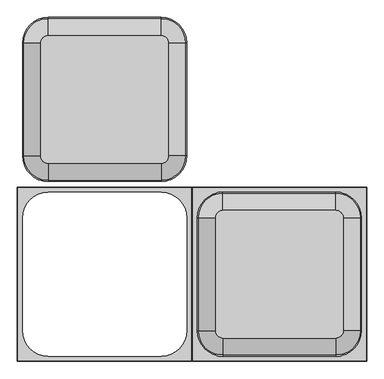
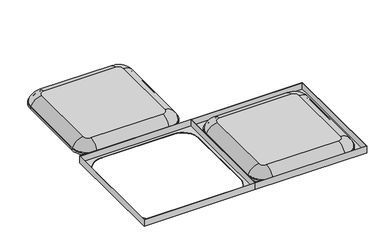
"""IFC4 building model written with IfcOpenShell, lengths in millimetres: proxy geometry, Maxxit_Concave-Ceiling_rev-01 : Maxxit_Concave-Ceiling_Solo."""

from ifc_helpers import new_model, si_unit, point, frame, origin, place, context, project, spatial, polyline, circle_curve, ellipse_curve, trimmed, source, transform, mapped, element, save
from ifc_brep_helpers import plane_surface, cylinder_surface, revolved_surface, advanced_brep


def generic_models_d78bd060(model_context):
    return source(origin(), model_context, "Body", "AdvancedBrep", [
        advanced_brep(
        [(679.0117964, 1263.0125, 44.45), (653.4125, 1288.6117964, 44.45), (259.4, 1288.6117964, 44.45), (233.8007036, 1263.0125, 44.45), (233.8007036, 869.0, 44.45), (259.4, 843.4007036, 44.45), (653.4125, 843.4007036, 44.45), (679.0117964, 869.0, 44.45), (653.4125, 1288.6117964, 34.925), (679.0117964, 1263.0125, 34.925), (679.0117964, 869.0, 34.925), (653.4125, 843.4007036, 34.925), (259.4, 843.4007036, 34.925), (233.8007036, 869.0, 34.925), (233.8007036, 1263.0125, 34.925), (259.4, 1288.6117964, 34.925), (653.4125, 1352.0125, -1.5875), (742.4125, 1263.0125, -1.5875), (742.4125, 1263.0125, -11.1125), (653.4125, 1352.0125, -11.1125), (653.4125, 1348.9934189, 0.6047619), (739.3934189, 1263.0125, 0.6047619), (653.4125, 1339.9361755, -2.3434524), (730.3361755, 1263.0125, -2.3434524), (259.4, 1352.0125, -11.1125), (259.4, 1352.0125, -1.5875), (259.4, 1348.9934189, 0.6047619), (259.4, 1339.9361755, -2.3434524), (170.4, 1263.0125, -11.1125), (170.4, 1263.0125, -1.5875), (173.4190811, 1263.0125, 0.6047619), (182.4763245, 1263.0125, -2.3434524), (170.4, 869.0, -11.1125), (170.4, 869.0, -1.5875), (173.4190811, 869.0, 0.6047619), (182.4763245, 869.0, -2.3434524), (259.4, 780.0, -11.1125), (259.4, 780.0, -1.5875), (259.4, 783.0190811, 0.6047619), (259.4, 792.0763245, -2.3434524), (653.4125, 780.0, -11.1125), (653.4125, 780.0, -1.5875), (653.4125, 783.0190811, 0.6047619), (653.4125, 792.0763245, -2.3434524), (742.4125, 869.0, -11.1125), (742.4125, 869.0, -1.5875), (739.3934189, 869.0, 0.6047619), (730.3361755, 869.0, -2.3434524)],
        [
            (0, 1, circle_curve(frame((653.4125, 1263.0125, 44.45), z_axis=(0.0, 0.0, 1.0), x_axis=(1.0, 0.0, 0.0)), 25.5992964)),
            (1, 2),
            (2, 3, circle_curve(frame((259.4, 1263.0125, 44.45), z_axis=(0.0, 0.0, 1.0), x_axis=(0.0, 1.0, 0.0)), 25.5992964)),
            (3, 4),
            (4, 5, circle_curve(frame((259.4, 869.0, 44.45), z_axis=(0.0, 0.0, 1.0), x_axis=(-1.0, 0.0, 0.0)), 25.5992964)),
            (5, 6),
            (6, 7, circle_curve(frame((653.4125, 869.0, 44.45), z_axis=(0.0, 0.0, 1.0), x_axis=(0.0, -1.0, 0.0)), 25.5992964)),
            (7, 0),
            (8, 9, circle_curve(frame((653.4125, 1263.0125, 34.925), z_axis=(0.0, 0.0, -1.0), x_axis=(1.0, 0.0, 0.0)), 25.5992964)),
            (9, 10),
            (10, 11, circle_curve(frame((653.4125, 869.0, 34.925), z_axis=(0.0, 0.0, -1.0), x_axis=(0.0, -1.0, 0.0)), 25.5992964)),
            (11, 12),
            (12, 13, circle_curve(frame((259.4, 869.0, 34.925), z_axis=(0.0, 0.0, -1.0), x_axis=(-1.0, 0.0, 0.0)), 25.5992964)),
            (13, 14),
            (14, 15, circle_curve(frame((259.4, 1263.0125, 34.925), z_axis=(0.0, 0.0, -1.0), x_axis=(0.0, 1.0, 0.0)), 25.5992964)),
            (15, 8),
            (16, 17, circle_curve(frame((653.4125, 1263.0125, -1.5875), z_axis=(0.0, 0.0, -1.0), x_axis=(1.0, 0.0, 0.0)), 89.0)),
            (17, 18),
            (18, 19, circle_curve(frame((653.4125, 1263.0125, -11.1125), z_axis=(0.0, 0.0, 1.0), x_axis=(1.0, 0.0, 0.0)), 89.0)),
            (19, 16),
            (16, 20, circle_curve(frame((653.4125, 1352.0125, 1.5875), z_axis=(-1.0, 0.0, 0.0), x_axis=(0.0, -1.0, 0.0)), 3.175)),
            (20, 21, circle_curve(frame((653.4125, 1263.0125, 0.6047619), z_axis=(0.0, 0.0, -1.0), x_axis=(1.0, 0.0, 0.0)), 85.9809189)),
            (21, 17, circle_curve(frame((742.4125, 1263.0125, 1.5875), z_axis=(0.0, -1.0, 0.0), x_axis=(-1.0, 0.0, 0.0)), 3.175)),
            (20, 1, circle_curve(frame((653.4125, 1288.6117964, -19.05), z_axis=(1.0, 0.0, 0.0), x_axis=(0.0, -1.0, 0.0)), 63.5)),
            (0, 21, circle_curve(frame((679.0117964, 1263.0125, -19.05), z_axis=(0.0, 1.0, 0.0), x_axis=(-1.0, 0.0, 0.0)), 63.5)),
            (22, 23, circle_curve(frame((653.4125, 1263.0125, -2.3434524), z_axis=(0.0, 0.0, -1.0), x_axis=(1.0, 0.0, 0.0)), 76.9236755)),
            (23, 9, circle_curve(frame((679.0117964, 1263.0125, -19.05), z_axis=(0.0, -1.0, 0.0), x_axis=(-1.0, 0.0, 0.0)), 53.975)),
            (8, 22, circle_curve(frame((653.4125, 1288.6117964, -19.05), z_axis=(-1.0, 0.0, 0.0), x_axis=(0.0, -1.0, 0.0)), 53.975)),
            (18, 23, circle_curve(frame((742.4125, 1263.0125, 1.5875), z_axis=(0.0, 1.0, 0.0), x_axis=(-1.0, 0.0, 0.0)), 12.7)),
            (22, 19, circle_curve(frame((653.4125, 1352.0125, 1.5875), z_axis=(1.0, 0.0, 0.0), x_axis=(0.0, -1.0, 0.0)), 12.7)),
            (19, 24),
            (24, 25),
            (25, 16),
            (25, 26, circle_curve(frame((259.4, 1352.0125, 1.5875), z_axis=(-1.0, 0.0, 0.0), x_axis=(0.0, -1.0, 0.0)), 3.175)),
            (26, 20),
            (26, 2, circle_curve(frame((259.4, 1288.6117964, -19.05), z_axis=(1.0, 0.0, 0.0), x_axis=(0.0, -1.0, 0.0)), 63.5)),
            (15, 27, circle_curve(frame((259.4, 1288.6117964, -19.05), z_axis=(-1.0, 0.0, 0.0), x_axis=(0.0, -1.0, 0.0)), 53.975)),
            (27, 22),
            (27, 24, circle_curve(frame((259.4, 1352.0125, 1.5875), z_axis=(1.0, 0.0, 0.0), x_axis=(0.0, -1.0, 0.0)), 12.7)),
            (24, 28, circle_curve(frame((259.4, 1263.0125, -11.1125), z_axis=(0.0, 0.0, 1.0), x_axis=(0.0, 1.0, 0.0)), 89.0)),
            (28, 29),
            (29, 25, circle_curve(frame((259.4, 1263.0125, -1.5875), z_axis=(0.0, 0.0, -1.0), x_axis=(0.0, 1.0, 0.0)), 89.0)),
            (29, 30, circle_curve(frame((170.4, 1263.0125, 1.5875), z_axis=(0.0, -1.0, 0.0), x_axis=(1.0, 0.0, 0.0)), 3.175)),
            (30, 26, circle_curve(frame((259.4, 1263.0125, 0.6047619), z_axis=(0.0, 0.0, -1.0), x_axis=(0.0, 1.0, 0.0)), 85.9809189)),
            (30, 3, circle_curve(frame((233.8007036, 1263.0125, -19.05), z_axis=(0.0, 1.0, 0.0), x_axis=(1.0, 0.0, 0.0)), 63.5)),
            (14, 31, circle_curve(frame((233.8007036, 1263.0125, -19.05), z_axis=(0.0, -1.0, 0.0), x_axis=(1.0, 0.0, 0.0)), 53.975)),
            (31, 27, circle_curve(frame((259.4, 1263.0125, -2.3434524), z_axis=(0.0, 0.0, -1.0), x_axis=(0.0, 1.0, 0.0)), 76.9236755)),
            (31, 28, circle_curve(frame((170.4, 1263.0125, 1.5875), z_axis=(0.0, 1.0, 0.0), x_axis=(1.0, 0.0, 0.0)), 12.7)),
            (28, 32),
            (32, 33),
            (33, 29),
            (33, 34, circle_curve(frame((170.4, 869.0, 1.5875), z_axis=(0.0, -1.0, 0.0), x_axis=(1.0, 0.0, 0.0)), 3.175)),
            (34, 30),
            (34, 4, circle_curve(frame((233.8007036, 869.0, -19.05), z_axis=(0.0, 1.0, 0.0), x_axis=(1.0, 0.0, 0.0)), 63.5)),
            (13, 35, circle_curve(frame((233.8007036, 869.0, -19.05), z_axis=(0.0, -1.0, 0.0), x_axis=(1.0, 0.0, 0.0)), 53.975)),
            (35, 31),
            (35, 32, circle_curve(frame((170.4, 869.0, 1.5875), z_axis=(0.0, 1.0, 0.0), x_axis=(1.0, 0.0, 0.0)), 12.7)),
            (32, 36, circle_curve(frame((259.4, 869.0, -11.1125), z_axis=(0.0, 0.0, 1.0), x_axis=(-1.0, 0.0, 0.0)), 89.0)),
            (36, 37),
            (37, 33, circle_curve(frame((259.4, 869.0, -1.5875), z_axis=(0.0, 0.0, -1.0), x_axis=(-1.0, 0.0, 0.0)), 89.0)),
            (37, 38, circle_curve(frame((259.4, 780.0, 1.5875), z_axis=(1.0, 0.0, 0.0), x_axis=(0.0, 1.0, 0.0)), 3.175)),
            (38, 34, circle_curve(frame((259.4, 869.0, 0.6047619), z_axis=(0.0, 0.0, -1.0), x_axis=(-1.0, 0.0, 0.0)), 85.9809189)),
            (38, 5, circle_curve(frame((259.4, 843.4007036, -19.05), z_axis=(-1.0, 0.0, 0.0), x_axis=(0.0, 1.0, 0.0)), 63.5)),
            (12, 39, circle_curve(frame((259.4, 843.4007036, -19.05), z_axis=(1.0, 0.0, 0.0), x_axis=(0.0, 1.0, 0.0)), 53.975)),
            (39, 35, circle_curve(frame((259.4, 869.0, -2.3434524), z_axis=(0.0, 0.0, -1.0), x_axis=(-1.0, 0.0, 0.0)), 76.9236755)),
            (39, 36, circle_curve(frame((259.4, 780.0, 1.5875), z_axis=(-1.0, 0.0, 0.0), x_axis=(0.0, 1.0, 0.0)), 12.7)),
            (36, 40),
            (40, 41),
            (41, 37),
            (41, 42, circle_curve(frame((653.4125, 780.0, 1.5875), z_axis=(1.0, 0.0, 0.0), x_axis=(0.0, 1.0, 0.0)), 3.175)),
            (42, 38),
            (42, 6, circle_curve(frame((653.4125, 843.4007036, -19.05), z_axis=(-1.0, 0.0, 0.0), x_axis=(0.0, 1.0, 0.0)), 63.5)),
            (11, 43, circle_curve(frame((653.4125, 843.4007036, -19.05), z_axis=(1.0, 0.0, 0.0), x_axis=(0.0, 1.0, 0.0)), 53.975)),
            (43, 39),
            (43, 40, circle_curve(frame((653.4125, 780.0, 1.5875), z_axis=(-1.0, 0.0, 0.0), x_axis=(0.0, 1.0, 0.0)), 12.7)),
            (40, 44, circle_curve(frame((653.4125, 869.0, -11.1125), z_axis=(0.0, 0.0, 1.0), x_axis=(0.0, -1.0, 0.0)), 89.0)),
            (44, 45),
            (45, 41, circle_curve(frame((653.4125, 869.0, -1.5875), z_axis=(0.0, 0.0, -1.0), x_axis=(0.0, -1.0, 0.0)), 89.0)),
            (45, 46, circle_curve(frame((742.4125, 869.0, 1.5875), z_axis=(0.0, 1.0, 0.0), x_axis=(-1.0, 0.0, 0.0)), 3.175)),
            (46, 42, circle_curve(frame((653.4125, 869.0, 0.6047619), z_axis=(0.0, 0.0, -1.0), x_axis=(0.0, -1.0, 0.0)), 85.9809189)),
            (46, 7, circle_curve(frame((679.0117964, 869.0, -19.05), z_axis=(0.0, -1.0, 0.0), x_axis=(-1.0, 0.0, 0.0)), 63.5)),
            (10, 47, circle_curve(frame((679.0117964, 869.0, -19.05), z_axis=(0.0, 1.0, 0.0), x_axis=(-1.0, 0.0, 0.0)), 53.975)),
            (47, 43, circle_curve(frame((653.4125, 869.0, -2.3434524), z_axis=(0.0, 0.0, -1.0), x_axis=(0.0, -1.0, 0.0)), 76.9236755)),
            (47, 44, circle_curve(frame((742.4125, 869.0, 1.5875), z_axis=(0.0, -1.0, 0.0), x_axis=(-1.0, 0.0, 0.0)), 12.7)),
            (17, 45),
            (44, 18),
            (21, 46),
            (23, 47),
        ],
        [
            plane_surface(frame((250.0573389, 869.0, 44.45), z_axis=(0.0, 0.0, 1.0), x_axis=(0.0, -1.0, 0.0))),
            plane_surface(frame((250.0573389, 869.0, 34.925), z_axis=(0.0, 0.0, -1.0), x_axis=(0.0, 1.0, 0.0))),
            cylinder_surface(frame((653.4125, 1263.0125, 25.4), z_axis=(0.0, 0.0, 1.0), x_axis=(1.0, 0.0, 0.0)), 89.0),
            revolved_surface(trimmed(ellipse_curve(frame((742.4125, 1263.0125, 1.5875), z_axis=(0.0, 1.0, 0.0), x_axis=(-1.0, 0.0, 0.0)), 3.175, 3.175), [point((742.4125, 1263.0125, -1.5875))], [point((739.3934189, 1263.0125, 0.6047619))], True, "CARTESIAN"), (653.4125, 1263.0125, 25.4), (0.0, 0.0, 1.0)),
            revolved_surface(trimmed(ellipse_curve(frame((679.0117964, 1263.0125, -19.05), z_axis=(0.0, -1.0, 0.0), x_axis=(-1.0, 0.0, 0.0)), 63.5, 63.5), [point((739.3934189, 1263.0125, 0.6047619))], [point((679.0117964, 1263.0125, 44.45))], True, "CARTESIAN"), (653.4125, 1263.0125, 25.4), (0.0, 0.0, 1.0)),
            revolved_surface(trimmed(ellipse_curve(frame((679.0117964, 1263.0125, -19.05), z_axis=(0.0, 1.0, 0.0), x_axis=(-1.0, 0.0, 0.0)), 53.975, 53.975), [point((679.0117964, 1263.0125, 34.925))], [point((730.3361755, 1263.0125, -2.3434524))], True, "CARTESIAN"), (653.4125, 1263.0125, 25.4), (0.0, 0.0, 1.0)),
            revolved_surface(trimmed(ellipse_curve(frame((742.4125, 1263.0125, 1.5875), z_axis=(0.0, -1.0, 0.0), x_axis=(-1.0, 0.0, 0.0)), 12.7, 12.7), [point((730.3361755, 1263.0125, -2.3434524))], [point((742.4125, 1263.0125, -11.1125))], True, "CARTESIAN"), (653.4125, 1263.0125, 25.4), (0.0, 0.0, 1.0)),
            plane_surface(frame((653.4125, 1352.0125, -11.1125), z_axis=(0.0, 1.0, 0.0), x_axis=(-1.0, 0.0, 0.0))),
            revolved_surface(polyline([(259.4, 1348.8375, 1.5875), (653.4125, 1348.8375, 1.5875)]), (653.4125, 1352.0125, 1.5875), (-1.0, 0.0, 0.0)),
            cylinder_surface(frame((653.4125, 1288.6117964, -19.05), z_axis=(1.0, 0.0, 0.0), x_axis=(0.0, -1.0, 0.0)), 63.5),
            revolved_surface(polyline([(259.4, 1234.6367964, -19.05), (653.4125, 1234.6367964, -19.05)]), (653.4125, 1288.6117964, -19.05), (-1.0, 0.0, 0.0)),
            cylinder_surface(frame((653.4125, 1352.0125, 1.5875), z_axis=(1.0, 0.0, 0.0), x_axis=(0.0, -1.0, 0.0)), 12.7),
            cylinder_surface(frame((259.4, 1263.0125, 25.4), z_axis=(0.0, 0.0, 1.0), x_axis=(0.0, 1.0, 0.0)), 89.0),
            revolved_surface(trimmed(ellipse_curve(frame((259.4, 1352.0125, 1.5875), z_axis=(-1.0, 0.0, 0.0), x_axis=(0.0, -1.0, 0.0)), 3.175, 3.175), [point((259.4, 1352.0125, -1.5875))], [point((259.4, 1348.9934189, 0.6047619))], True, "CARTESIAN"), (259.4, 1263.0125, 25.4), (0.0, 0.0, 1.0)),
            revolved_surface(trimmed(ellipse_curve(frame((259.4, 1288.6117964, -19.05), z_axis=(1.0, 0.0, 0.0), x_axis=(0.0, -1.0, 0.0)), 63.5, 63.5), [point((259.4, 1348.9934189, 0.6047619))], [point((259.4, 1288.6117964, 44.45))], True, "CARTESIAN"), (259.4, 1263.0125, 25.4), (0.0, 0.0, 1.0)),
            revolved_surface(trimmed(ellipse_curve(frame((259.4, 1288.6117964, -19.05), z_axis=(-1.0, 0.0, 0.0), x_axis=(0.0, -1.0, 0.0)), 53.975, 53.975), [point((259.4, 1288.6117964, 34.925))], [point((259.4, 1339.9361755, -2.3434524))], True, "CARTESIAN"), (259.4, 1263.0125, 25.4), (0.0, 0.0, 1.0)),
            revolved_surface(trimmed(ellipse_curve(frame((259.4, 1352.0125, 1.5875), z_axis=(1.0, 0.0, 0.0), x_axis=(0.0, -1.0, 0.0)), 12.7, 12.7), [point((259.4, 1339.9361755, -2.3434524))], [point((259.4, 1352.0125, -11.1125))], True, "CARTESIAN"), (259.4, 1263.0125, 25.4), (0.0, 0.0, 1.0)),
            plane_surface(frame((170.4, 1263.0125, -11.1125), z_axis=(-1.0, 0.0, 0.0), x_axis=(0.0, -1.0, 0.0))),
            revolved_surface(polyline([(173.57500000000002, 869.0, 1.5875), (173.57500000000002, 1263.0125, 1.5875)]), (170.4, 1263.0125, 1.5875), (0.0, -1.0, 0.0)),
            cylinder_surface(frame((233.8007036, 1263.0125, -19.05), z_axis=(0.0, 1.0, 0.0), x_axis=(1.0, 0.0, 0.0)), 63.5),
            revolved_surface(polyline([(287.7757036, 869.0, -19.05), (287.7757036, 1263.0125, -19.05)]), (233.8007036, 1263.0125, -19.05), (0.0, -1.0, 0.0)),
            cylinder_surface(frame((170.4, 1263.0125, 1.5875), z_axis=(0.0, 1.0, 0.0), x_axis=(1.0, 0.0, 0.0)), 12.7),
            cylinder_surface(frame((259.4, 869.0, 25.4), z_axis=(0.0, 0.0, 1.0), x_axis=(-1.0, 0.0, 0.0)), 89.0),
            revolved_surface(trimmed(ellipse_curve(frame((170.4, 869.0, 1.5875), z_axis=(0.0, -1.0, 0.0), x_axis=(1.0, 0.0, 0.0)), 3.175, 3.175), [point((170.4, 869.0, -1.5875))], [point((173.4190811, 869.0, 0.6047619))], True, "CARTESIAN"), (259.4, 869.0, 25.4), (0.0, 0.0, 1.0)),
            revolved_surface(trimmed(ellipse_curve(frame((233.8007036, 869.0, -19.05), z_axis=(0.0, 1.0, 0.0), x_axis=(1.0, 0.0, 0.0)), 63.5, 63.5), [point((173.4190811, 869.0, 0.6047619))], [point((233.8007036, 869.0, 44.45))], True, "CARTESIAN"), (259.4, 869.0, 25.4), (0.0, 0.0, 1.0)),
            revolved_surface(trimmed(ellipse_curve(frame((233.8007036, 869.0, -19.05), z_axis=(0.0, -1.0, 0.0), x_axis=(1.0, 0.0, 0.0)), 53.975, 53.975), [point((233.8007036, 869.0, 34.925))], [point((182.4763245, 869.0, -2.3434524))], True, "CARTESIAN"), (259.4, 869.0, 25.4), (0.0, 0.0, 1.0)),
            revolved_surface(trimmed(ellipse_curve(frame((170.4, 869.0, 1.5875), z_axis=(0.0, 1.0, 0.0), x_axis=(1.0, 0.0, 0.0)), 12.7, 12.7), [point((182.4763245, 869.0, -2.3434524))], [point((170.4, 869.0, -11.1125))], True, "CARTESIAN"), (259.4, 869.0, 25.4), (0.0, 0.0, 1.0)),
            plane_surface(frame((259.4, 780.0, -11.1125), z_axis=(0.0, -1.0, 0.0), x_axis=(1.0, 0.0, 0.0))),
            revolved_surface(polyline([(653.4125, 783.175, 1.5875), (259.4, 783.175, 1.5875)]), (259.4, 780.0, 1.5875), (1.0, 0.0, 0.0)),
            cylinder_surface(frame((259.4, 843.4007036, -19.05), z_axis=(-1.0, 0.0, 0.0), x_axis=(0.0, 1.0, 0.0)), 63.5),
            revolved_surface(polyline([(653.4125, 897.3757036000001, -19.05), (259.4, 897.3757036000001, -19.05)]), (259.4, 843.4007036, -19.05), (1.0, 0.0, 0.0)),
            cylinder_surface(frame((259.4, 780.0, 1.5875), z_axis=(-1.0, 0.0, 0.0), x_axis=(0.0, 1.0, 0.0)), 12.7),
            cylinder_surface(frame((653.4125, 869.0, 25.4), z_axis=(0.0, 0.0, 1.0), x_axis=(0.0, -1.0, 0.0)), 89.0),
            revolved_surface(trimmed(ellipse_curve(frame((653.4125, 780.0, 1.5875), z_axis=(1.0, 0.0, 0.0), x_axis=(0.0, 1.0, 0.0)), 3.175, 3.175), [point((653.4125, 780.0, -1.5875))], [point((653.4125, 783.0190811, 0.6047619))], True, "CARTESIAN"), (653.4125, 869.0, 25.4), (0.0, 0.0, 1.0)),
            revolved_surface(trimmed(ellipse_curve(frame((653.4125, 843.4007036, -19.05), z_axis=(-1.0, 0.0, 0.0), x_axis=(0.0, 1.0, 0.0)), 63.5, 63.5), [point((653.4125, 783.0190811, 0.6047619))], [point((653.4125, 843.4007036, 44.45))], True, "CARTESIAN"), (653.4125, 869.0, 25.4), (0.0, 0.0, 1.0)),
            revolved_surface(trimmed(ellipse_curve(frame((653.4125, 843.4007036, -19.05), z_axis=(1.0, 0.0, 0.0), x_axis=(0.0, 1.0, 0.0)), 53.975, 53.975), [point((653.4125, 843.4007036, 34.925))], [point((653.4125, 792.0763245, -2.3434524))], True, "CARTESIAN"), (653.4125, 869.0, 25.4), (0.0, 0.0, 1.0)),
            revolved_surface(trimmed(ellipse_curve(frame((653.4125, 780.0, 1.5875), z_axis=(-1.0, 0.0, 0.0), x_axis=(0.0, 1.0, 0.0)), 12.7, 12.7), [point((653.4125, 792.0763245, -2.3434524))], [point((653.4125, 780.0, -11.1125))], True, "CARTESIAN"), (653.4125, 869.0, 25.4), (0.0, 0.0, 1.0)),
            plane_surface(frame((742.4125, 869.0, -11.1125), z_axis=(1.0, 0.0, 0.0), x_axis=(0.0, 1.0, 0.0))),
            revolved_surface(polyline([(739.2375000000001, 1263.0125, 1.5875), (739.2375000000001, 869.0, 1.5875)]), (742.4125, 869.0, 1.5875), (0.0, 1.0, 0.0)),
            cylinder_surface(frame((679.0117964, 869.0, -19.05), z_axis=(0.0, -1.0, 0.0), x_axis=(-1.0, 0.0, 0.0)), 63.5),
            revolved_surface(polyline([(625.0367964, 1263.0125, -19.05), (625.0367964, 869.0, -19.05)]), (679.0117964, 869.0, -19.05), (0.0, 1.0, 0.0)),
            cylinder_surface(frame((742.4125, 869.0, 1.5875), z_axis=(0.0, -1.0, 0.0), x_axis=(-1.0, 0.0, 0.0)), 12.7),
        ],
        [
            (0, [[1, 2, 3, 4, 5, 6, 7, 8]]),
            (1, [[9, 10, 11, 12, 13, 14, 15, 16]]),
            (2, [[17, 18, 19, 20]]),
            (3, [[-17, 21, 22, 23]]),
            (4, [[-22, 24, -1, 25]]),
            (5, [[26, 27, -9, 28]]),
            (6, [[-19, 29, -26, 30]]),
            (7, [[-20, 31, 32, 33]]),
            (8, [[-21, -33, 34, 35]]),
            (9, [[-24, -35, 36, -2]]),
            (10, [[-28, -16, 37, 38]]),
            (11, [[-30, -38, 39, -31]]),
            (12, [[-32, 40, 41, 42]]),
            (13, [[-34, -42, 43, 44]]),
            (14, [[-36, -44, 45, -3]]),
            (15, [[-37, -15, 46, 47]]),
            (16, [[-39, -47, 48, -40]]),
            (17, [[-41, 49, 50, 51]]),
            (18, [[-43, -51, 52, 53]]),
            (19, [[-45, -53, 54, -4]]),
            (20, [[-46, -14, 55, 56]]),
            (21, [[-48, -56, 57, -49]]),
            (22, [[-50, 58, 59, 60]]),
            (23, [[-52, -60, 61, 62]]),
            (24, [[-54, -62, 63, -5]]),
            (25, [[-55, -13, 64, 65]]),
            (26, [[-57, -65, 66, -58]]),
            (27, [[-59, 67, 68, 69]]),
            (28, [[-61, -69, 70, 71]]),
            (29, [[-63, -71, 72, -6]]),
            (30, [[-64, -12, 73, 74]]),
            (31, [[-66, -74, 75, -67]]),
            (32, [[-68, 76, 77, 78]]),
            (33, [[-70, -78, 79, 80]]),
            (34, [[-72, -80, 81, -7]]),
            (35, [[-73, -11, 82, 83]]),
            (36, [[-75, -83, 84, -76]]),
            (37, [[-18, 85, -77, 86]]),
            (38, [[-23, 87, -79, -85]]),
            (39, [[-25, -8, -81, -87]]),
            (40, [[-27, 88, -82, -10]]),
            (41, [[-29, -86, -84, -88]]),
        ],
    ),
        advanced_brep(
        [(762.0, 152.4, -12.7), (762.0, 760.4125, -12.7), (1370.0125, 760.4125, -12.7), (1370.0125, 152.4, -12.7), (1352.0125, 259.4, -12.7), (1352.0125, 653.4125, -12.7), (1263.0125, 742.4125, -12.7), (869.0, 742.4125, -12.7), (780.0, 653.4125, -12.7), (780.0, 259.4, -12.7), (869.0, 170.4, -12.7), (1263.0125, 170.4, -12.7), (762.0, 152.4, 25.4), (1370.0125, 152.4, 25.4), (1370.0125, 760.4125, 25.4), (762.0, 760.4125, 25.4), (1368.425, 153.9875, 25.4), (763.5875, 153.9875, 25.4), (763.5875, 758.825, 25.4), (1368.425, 758.825, 25.4), (1352.0125, 259.4, -11.1125), (1352.0125, 653.4125, -11.1125), (1263.0125, 170.4, -11.1125), (1263.0125, 742.4125, -11.1125), (869.0, 170.4, -11.1125), (780.0, 259.4, -11.1125), (780.0, 653.4125, -11.1125), (869.0, 742.4125, -11.1125), (763.5875, 153.9875, -11.1125), (1368.425, 153.9875, -11.1125), (1368.425, 758.825, -11.1125), (763.5875, 758.825, -11.1125)],
        [
            (0, 1),
            (1, 2),
            (2, 3),
            (3, 0),
            (4, 5),
            (5, 6, circle_curve(frame((1263.0125, 653.4125, -12.7), z_axis=(0.0, 0.0, 1.0), x_axis=(-1.0, 0.0, 0.0)), 89.0)),
            (6, 7),
            (7, 8, circle_curve(frame((869.0, 653.4125, -12.7), z_axis=(0.0, 0.0, 1.0), x_axis=(-1.0, 0.0, 0.0)), 89.0)),
            (8, 9),
            (9, 10, circle_curve(frame((869.0, 259.4, -12.7), z_axis=(0.0, 0.0, 1.0), x_axis=(-1.0, 0.0, 0.0)), 89.0)),
            (10, 11),
            (11, 4, circle_curve(frame((1263.0125, 259.4, -12.7), z_axis=(0.0, 0.0, 1.0), x_axis=(-1.0, 0.0, 0.0)), 89.0)),
            (12, 13),
            (13, 14),
            (14, 15),
            (15, 12),
            (16, 17),
            (17, 18),
            (18, 19),
            (19, 16),
            (12, 0),
            (3, 13),
            (2, 14),
            (1, 15),
            (4, 20),
            (20, 21),
            (21, 5),
            (11, 22),
            (22, 20, circle_curve(frame((1263.0125, 259.4, -11.1125), z_axis=(0.0, 0.0, 1.0), x_axis=(-1.0, 0.0, 0.0)), 89.0)),
            (21, 23, circle_curve(frame((1263.0125, 653.4125, -11.1125), z_axis=(0.0, 0.0, 1.0), x_axis=(-1.0, 0.0, 0.0)), 89.0)),
            (23, 6),
            (10, 24),
            (24, 22),
            (9, 25),
            (25, 24, circle_curve(frame((869.0, 259.4, -11.1125), z_axis=(0.0, 0.0, 1.0), x_axis=(-1.0, 0.0, 0.0)), 89.0)),
            (8, 26),
            (26, 25),
            (7, 27),
            (27, 26, circle_curve(frame((869.0, 653.4125, -11.1125), z_axis=(0.0, 0.0, 1.0), x_axis=(-1.0, 0.0, 0.0)), 89.0)),
            (23, 27),
            (28, 29),
            (29, 30),
            (30, 31),
            (31, 28),
            (28, 17),
            (16, 29),
            (19, 30),
            (18, 31),
        ],
        [
            plane_surface(frame((1370.0125, 152.4, -12.7), z_axis=(0.0, 0.0, -1.0), x_axis=(-1.0, 0.0, 0.0))),
            plane_surface(frame((1370.0125, 152.4, 25.4), z_axis=(0.0, 0.0, 1.0), x_axis=(1.0, 0.0, 0.0))),
            plane_surface(frame((762.0, 152.4, 25.4), z_axis=(0.0, -1.0, 0.0), x_axis=(0.0, 0.0, -1.0))),
            plane_surface(frame((1370.0125, 152.4, 25.4), z_axis=(1.0, 0.0, 0.0), x_axis=(0.0, 0.0, -1.0))),
            plane_surface(frame((1370.0125, 760.4125, 25.4), z_axis=(0.0, 1.0, 0.0), x_axis=(0.0, 0.0, -1.0))),
            plane_surface(frame((762.0, 760.4125, 25.4), z_axis=(-1.0, 0.0, 0.0), x_axis=(0.0, 0.0, -1.0))),
            plane_surface(frame((1352.0125, 653.4125, 25.4), z_axis=(-1.0, 0.0, 0.0), x_axis=(0.0, 0.0, -1.0))),
            revolved_surface(polyline([(1174.0125, 259.4, -12.7), (1174.0125, 259.4, -11.1125)]), (1263.0125, 259.4, 0.0), (0.0, 0.0, -1.0)),
            revolved_surface(polyline([(1174.0125, 653.4125, -12.7), (1174.0125, 653.4125, -11.1125)]), (1263.0125, 653.4125, 0.0), (0.0, 0.0, -1.0)),
            plane_surface(frame((1263.0125, 170.4, 25.4), z_axis=(0.0, 1.0, 0.0), x_axis=(0.0, 0.0, -1.0))),
            revolved_surface(polyline([(780.0, 259.4, -12.7), (780.0, 259.4, -11.1125)]), (869.0, 259.4, 0.0), (0.0, 0.0, -1.0)),
            plane_surface(frame((780.0, 259.4, 25.4), z_axis=(1.0, 0.0, 0.0), x_axis=(0.0, 0.0, -1.0))),
            revolved_surface(polyline([(780.0, 653.4125, -12.7), (780.0, 653.4125, -11.1125)]), (869.0, 653.4125, 0.0), (0.0, 0.0, -1.0)),
            plane_surface(frame((869.0, 742.4125, 25.4), z_axis=(0.0, -1.0, 0.0), x_axis=(0.0, 0.0, -1.0))),
            plane_surface(frame((1369.0262746, 153.9875, -11.1125), z_axis=(0.0, 0.0, 1.0), x_axis=(-1.0, 0.0, 0.0))),
            plane_surface(frame((763.5875, 153.9875, 27.1388986), z_axis=(0.0, 1.0, 0.0), x_axis=(0.0, 0.0, -1.0))),
            plane_surface(frame((1368.425, 153.9875, 27.1388986), z_axis=(-1.0, 0.0, 0.0), x_axis=(0.0, 0.0, -1.0))),
            plane_surface(frame((1368.425, 758.825, 27.1388986), z_axis=(0.0, -1.0, 0.0), x_axis=(0.0, 0.0, -1.0))),
            plane_surface(frame((763.5875, 758.825, 27.1388986), z_axis=(1.0, 0.0, 0.0), x_axis=(0.0, 0.0, -1.0))),
        ],
        [
            (0, [[1, 2, 3, 4], [5, 6, 7, 8, 9, 10, 11, 12]]),
            (1, [[13, 14, 15, 16], [17, 18, 19, 20]]),
            (2, [[-13, 21, -4, 22]]),
            (3, [[-14, -22, -3, 23]]),
            (4, [[-15, -23, -2, 24]]),
            (5, [[-16, -24, -1, -21]]),
            (6, [[-5, 25, 26, 27]]),
            (7, [[-12, 28, 29, -25]]),
            (8, [[-6, -27, 30, 31]]),
            (9, [[-11, 32, 33, -28]]),
            (10, [[-10, 34, 35, -32]]),
            (11, [[-9, 36, 37, -34]]),
            (12, [[-8, 38, 39, -36]]),
            (13, [[-7, -31, 40, -38]]),
            (14, [[41, 42, 43, 44], [-26, -29, -33, -35, -37, -39, -40, -30]]),
            (15, [[-41, 45, -17, 46]]),
            (16, [[-42, -46, -20, 47]]),
            (17, [[-43, -47, -19, 48]]),
            (18, [[-44, -48, -18, -45]]),
        ],
    ),
        advanced_brep(
        [(1288.6117964, 653.4125, 44.45), (1263.0125, 679.0117964, 44.45), (869.0, 679.0117964, 44.45), (843.4007036, 653.4125, 44.45), (843.4007036, 259.4, 44.45), (869.0, 233.8007036, 44.45), (1263.0125, 233.8007036, 44.45), (1288.6117964, 259.4, 44.45), (1263.0125, 679.0117964, 34.925), (1288.6117964, 653.4125, 34.925), (1288.6117964, 259.4, 34.925), (1263.0125, 233.8007036, 34.925), (869.0, 233.8007036, 34.925), (843.4007036, 259.4, 34.925), (843.4007036, 653.4125, 34.925), (869.0, 679.0117964, 34.925), (1263.0125, 742.4125, -1.5875), (1352.0125, 653.4125, -1.5875), (1352.0125, 653.4125, -11.1125), (1263.0125, 742.4125, -11.1125), (1263.0125, 739.3934189, 0.6047619), (1348.9934189, 653.4125, 0.6047619), (1263.0125, 730.3361755, -2.3434524), (1339.9361755, 653.4125, -2.3434524), (869.0, 742.4125, -11.1125), (869.0, 742.4125, -1.5875), (869.0, 739.3934189, 0.6047619), (869.0, 730.3361755, -2.3434524), (780.0, 653.4125, -11.1125), (780.0, 653.4125, -1.5875), (783.0190811, 653.4125, 0.6047619), (792.0763245, 653.4125, -2.3434524), (780.0, 259.4, -11.1125), (780.0, 259.4, -1.5875), (783.0190811, 259.4, 0.6047619), (792.0763245, 259.4, -2.3434524), (869.0, 170.4, -11.1125), (869.0, 170.4, -1.5875), (869.0, 173.4190811, 0.6047619), (869.0, 182.4763245, -2.3434524), (1263.0125, 170.4, -11.1125), (1263.0125, 170.4, -1.5875), (1263.0125, 173.4190811, 0.6047619), (1263.0125, 182.4763245, -2.3434524), (1352.0125, 259.4, -11.1125), (1352.0125, 259.4, -1.5875), (1348.9934189, 259.4, 0.6047619), (1339.9361755, 259.4, -2.3434524)],
        [
            (0, 1, circle_curve(frame((1263.0125, 653.4125, 44.45), z_axis=(0.0, 0.0, 1.0), x_axis=(1.0, 0.0, 0.0)), 25.5992964)),
            (1, 2),
            (2, 3, circle_curve(frame((869.0, 653.4125, 44.45), z_axis=(0.0, 0.0, 1.0), x_axis=(0.0, 1.0, 0.0)), 25.5992964)),
            (3, 4),
            (4, 5, circle_curve(frame((869.0, 259.4, 44.45), z_axis=(0.0, 0.0, 1.0), x_axis=(-1.0, 0.0, 0.0)), 25.5992964)),
            (5, 6),
            (6, 7, circle_curve(frame((1263.0125, 259.4, 44.45), z_axis=(0.0, 0.0, 1.0), x_axis=(0.0, -1.0, 0.0)), 25.5992964)),
            (7, 0),
            (8, 9, circle_curve(frame((1263.0125, 653.4125, 34.925), z_axis=(0.0, 0.0, -1.0), x_axis=(1.0, 0.0, 0.0)), 25.5992964)),
            (9, 10),
            (10, 11, circle_curve(frame((1263.0125, 259.4, 34.925), z_axis=(0.0, 0.0, -1.0), x_axis=(0.0, -1.0, 0.0)), 25.5992964)),
            (11, 12),
            (12, 13, circle_curve(frame((869.0, 259.4, 34.925), z_axis=(0.0, 0.0, -1.0), x_axis=(-1.0, 0.0, 0.0)), 25.5992964)),
            (13, 14),
            (14, 15, circle_curve(frame((869.0, 653.4125, 34.925), z_axis=(0.0, 0.0, -1.0), x_axis=(0.0, 1.0, 0.0)), 25.5992964)),
            (15, 8),
            (16, 17, circle_curve(frame((1263.0125, 653.4125, -1.5875), z_axis=(0.0, 0.0, -1.0), x_axis=(1.0, 0.0, 0.0)), 89.0)),
            (17, 18),
            (18, 19, circle_curve(frame((1263.0125, 653.4125, -11.1125), z_axis=(0.0, 0.0, 1.0), x_axis=(1.0, 0.0, 0.0)), 89.0)),
            (19, 16),
            (16, 20, circle_curve(frame((1263.0125, 742.4125, 1.5875), z_axis=(-1.0, 0.0, 0.0), x_axis=(0.0, -1.0, 0.0)), 3.175)),
            (20, 21, circle_curve(frame((1263.0125, 653.4125, 0.6047619), z_axis=(0.0, 0.0, -1.0), x_axis=(1.0, 0.0, 0.0)), 85.9809189)),
            (21, 17, circle_curve(frame((1352.0125, 653.4125, 1.5875), z_axis=(0.0, -1.0, 0.0), x_axis=(-1.0, 0.0, 0.0)), 3.175)),
            (20, 1, circle_curve(frame((1263.0125, 679.0117964, -19.05), z_axis=(1.0, 0.0, 0.0), x_axis=(0.0, -1.0, 0.0)), 63.5)),
            (0, 21, circle_curve(frame((1288.6117964, 653.4125, -19.05), z_axis=(0.0, 1.0, 0.0), x_axis=(-1.0, 0.0, 0.0)), 63.5)),
            (22, 23, circle_curve(frame((1263.0125, 653.4125, -2.3434524), z_axis=(0.0, 0.0, -1.0), x_axis=(1.0, 0.0, 0.0)), 76.9236755)),
            (23, 9, circle_curve(frame((1288.6117964, 653.4125, -19.05), z_axis=(0.0, -1.0, 0.0), x_axis=(-1.0, 0.0, 0.0)), 53.975)),
            (8, 22, circle_curve(frame((1263.0125, 679.0117964, -19.05), z_axis=(-1.0, 0.0, 0.0), x_axis=(0.0, -1.0, 0.0)), 53.975)),
            (18, 23, circle_curve(frame((1352.0125, 653.4125, 1.5875), z_axis=(0.0, 1.0, 0.0), x_axis=(-1.0, 0.0, 0.0)), 12.7)),
            (22, 19, circle_curve(frame((1263.0125, 742.4125, 1.5875), z_axis=(1.0, 0.0, 0.0), x_axis=(0.0, -1.0, 0.0)), 12.7)),
            (19, 24),
            (24, 25),
            (25, 16),
            (25, 26, circle_curve(frame((869.0, 742.4125, 1.5875), z_axis=(-1.0, 0.0, 0.0), x_axis=(0.0, -1.0, 0.0)), 3.175)),
            (26, 20),
            (26, 2, circle_curve(frame((869.0, 679.0117964, -19.05), z_axis=(1.0, 0.0, 0.0), x_axis=(0.0, -1.0, 0.0)), 63.5)),
            (15, 27, circle_curve(frame((869.0, 679.0117964, -19.05), z_axis=(-1.0, 0.0, 0.0), x_axis=(0.0, -1.0, 0.0)), 53.975)),
            (27, 22),
            (27, 24, circle_curve(frame((869.0, 742.4125, 1.5875), z_axis=(1.0, 0.0, 0.0), x_axis=(0.0, -1.0, 0.0)), 12.7)),
            (24, 28, circle_curve(frame((869.0, 653.4125, -11.1125), z_axis=(0.0, 0.0, 1.0), x_axis=(0.0, 1.0, 0.0)), 89.0)),
            (28, 29),
            (29, 25, circle_curve(frame((869.0, 653.4125, -1.5875), z_axis=(0.0, 0.0, -1.0), x_axis=(0.0, 1.0, 0.0)), 89.0)),
            (29, 30, circle_curve(frame((780.0, 653.4125, 1.5875), z_axis=(0.0, -1.0, 0.0), x_axis=(1.0, 0.0, 0.0)), 3.175)),
            (30, 26, circle_curve(frame((869.0, 653.4125, 0.6047619), z_axis=(0.0, 0.0, -1.0), x_axis=(0.0, 1.0, 0.0)), 85.9809189)),
            (30, 3, circle_curve(frame((843.4007036, 653.4125, -19.05), z_axis=(0.0, 1.0, 0.0), x_axis=(1.0, 0.0, 0.0)), 63.5)),
            (14, 31, circle_curve(frame((843.4007036, 653.4125, -19.05), z_axis=(0.0, -1.0, 0.0), x_axis=(1.0, 0.0, 0.0)), 53.975)),
            (31, 27, circle_curve(frame((869.0, 653.4125, -2.3434524), z_axis=(0.0, 0.0, -1.0), x_axis=(0.0, 1.0, 0.0)), 76.9236755)),
            (31, 28, circle_curve(frame((780.0, 653.4125, 1.5875), z_axis=(0.0, 1.0, 0.0), x_axis=(1.0, 0.0, 0.0)), 12.7)),
            (28, 32),
            (32, 33),
            (33, 29),
            (33, 34, circle_curve(frame((780.0, 259.4, 1.5875), z_axis=(0.0, -1.0, 0.0), x_axis=(1.0, 0.0, 0.0)), 3.175)),
            (34, 30),
            (34, 4, circle_curve(frame((843.4007036, 259.4, -19.05), z_axis=(0.0, 1.0, 0.0), x_axis=(1.0, 0.0, 0.0)), 63.5)),
            (13, 35, circle_curve(frame((843.4007036, 259.4, -19.05), z_axis=(0.0, -1.0, 0.0), x_axis=(1.0, 0.0, 0.0)), 53.975)),
            (35, 31),
            (35, 32, circle_curve(frame((780.0, 259.4, 1.5875), z_axis=(0.0, 1.0, 0.0), x_axis=(1.0, 0.0, 0.0)), 12.7)),
            (32, 36, circle_curve(frame((869.0, 259.4, -11.1125), z_axis=(0.0, 0.0, 1.0), x_axis=(-1.0, 0.0, 0.0)), 89.0)),
            (36, 37),
            (37, 33, circle_curve(frame((869.0, 259.4, -1.5875), z_axis=(0.0, 0.0, -1.0), x_axis=(-1.0, 0.0, 0.0)), 89.0)),
            (37, 38, circle_curve(frame((869.0, 170.4, 1.5875), z_axis=(1.0, 0.0, 0.0), x_axis=(0.0, 1.0, 0.0)), 3.175)),
            (38, 34, circle_curve(frame((869.0, 259.4, 0.6047619), z_axis=(0.0, 0.0, -1.0), x_axis=(-1.0, 0.0, 0.0)), 85.9809189)),
            (38, 5, circle_curve(frame((869.0, 233.8007036, -19.05), z_axis=(-1.0, 0.0, 0.0), x_axis=(0.0, 1.0, 0.0)), 63.5)),
            (12, 39, circle_curve(frame((869.0, 233.8007036, -19.05), z_axis=(1.0, 0.0, 0.0), x_axis=(0.0, 1.0, 0.0)), 53.975)),
            (39, 35, circle_curve(frame((869.0, 259.4, -2.3434524), z_axis=(0.0, 0.0, -1.0), x_axis=(-1.0, 0.0, 0.0)), 76.9236755)),
            (39, 36, circle_curve(frame((869.0, 170.4, 1.5875), z_axis=(-1.0, 0.0, 0.0), x_axis=(0.0, 1.0, 0.0)), 12.7)),
            (36, 40),
            (40, 41),
            (41, 37),
            (41, 42, circle_curve(frame((1263.0125, 170.4, 1.5875), z_axis=(1.0, 0.0, 0.0), x_axis=(0.0, 1.0, 0.0)), 3.175)),
            (42, 38),
            (42, 6, circle_curve(frame((1263.0125, 233.8007036, -19.05), z_axis=(-1.0, 0.0, 0.0), x_axis=(0.0, 1.0, 0.0)), 63.5)),
            (11, 43, circle_curve(frame((1263.0125, 233.8007036, -19.05), z_axis=(1.0, 0.0, 0.0), x_axis=(0.0, 1.0, 0.0)), 53.975)),
            (43, 39),
            (43, 40, circle_curve(frame((1263.0125, 170.4, 1.5875), z_axis=(-1.0, 0.0, 0.0), x_axis=(0.0, 1.0, 0.0)), 12.7)),
            (40, 44, circle_curve(frame((1263.0125, 259.4, -11.1125), z_axis=(0.0, 0.0, 1.0), x_axis=(0.0, -1.0, 0.0)), 89.0)),
            (44, 45),
            (45, 41, circle_curve(frame((1263.0125, 259.4, -1.5875), z_axis=(0.0, 0.0, -1.0), x_axis=(0.0, -1.0, 0.0)), 89.0)),
            (45, 46, circle_curve(frame((1352.0125, 259.4, 1.5875), z_axis=(0.0, 1.0, 0.0), x_axis=(-1.0, 0.0, 0.0)), 3.175)),
            (46, 42, circle_curve(frame((1263.0125, 259.4, 0.6047619), z_axis=(0.0, 0.0, -1.0), x_axis=(0.0, -1.0, 0.0)), 85.9809189)),
            (46, 7, circle_curve(frame((1288.6117964, 259.4, -19.05), z_axis=(0.0, -1.0, 0.0), x_axis=(-1.0, 0.0, 0.0)), 63.5)),
            (10, 47, circle_curve(frame((1288.6117964, 259.4, -19.05), z_axis=(0.0, 1.0, 0.0), x_axis=(-1.0, 0.0, 0.0)), 53.975)),
            (47, 43, circle_curve(frame((1263.0125, 259.4, -2.3434524), z_axis=(0.0, 0.0, -1.0), x_axis=(0.0, -1.0, 0.0)), 76.9236755)),
            (47, 44, circle_curve(frame((1352.0125, 259.4, 1.5875), z_axis=(0.0, -1.0, 0.0), x_axis=(-1.0, 0.0, 0.0)), 12.7)),
            (17, 45),
            (44, 18),
            (21, 46),
            (23, 47),
        ],
        [
            plane_surface(frame((859.6573389, 259.4, 44.45), z_axis=(0.0, 0.0, 1.0), x_axis=(0.0, -1.0, 0.0))),
            plane_surface(frame((859.6573389, 259.4, 34.925), z_axis=(0.0, 0.0, -1.0), x_axis=(0.0, 1.0, 0.0))),
            cylinder_surface(frame((1263.0125, 653.4125, 25.4), z_axis=(0.0, 0.0, 1.0), x_axis=(1.0, 0.0, 0.0)), 89.0),
            revolved_surface(trimmed(ellipse_curve(frame((1352.0125, 653.4125, 1.5875), z_axis=(0.0, 1.0, 0.0), x_axis=(-1.0, 0.0, 0.0)), 3.175, 3.175), [point((1352.0125, 653.4125, -1.5875))], [point((1348.9934189, 653.4125, 0.6047619))], True, "CARTESIAN"), (1263.0125, 653.4125, 25.4), (0.0, 0.0, 1.0)),
            revolved_surface(trimmed(ellipse_curve(frame((1288.6117964, 653.4125, -19.05), z_axis=(0.0, -1.0, 0.0), x_axis=(-1.0, 0.0, 0.0)), 63.5, 63.5), [point((1348.9934189, 653.4125, 0.6047619))], [point((1288.6117964, 653.4125, 44.45))], True, "CARTESIAN"), (1263.0125, 653.4125, 25.4), (0.0, 0.0, 1.0)),
            revolved_surface(trimmed(ellipse_curve(frame((1288.6117964, 653.4125, -19.05), z_axis=(0.0, 1.0, 0.0), x_axis=(-1.0, 0.0, 0.0)), 53.975, 53.975), [point((1288.6117964, 653.4125, 34.925))], [point((1339.9361755, 653.4125, -2.3434524))], True, "CARTESIAN"), (1263.0125, 653.4125, 25.4), (0.0, 0.0, 1.0)),
            revolved_surface(trimmed(ellipse_curve(frame((1352.0125, 653.4125, 1.5875), z_axis=(0.0, -1.0, 0.0), x_axis=(-1.0, 0.0, 0.0)), 12.7, 12.7), [point((1339.9361755, 653.4125, -2.3434524))], [point((1352.0125, 653.4125, -11.1125))], True, "CARTESIAN"), (1263.0125, 653.4125, 25.4), (0.0, 0.0, 1.0)),
            plane_surface(frame((1263.0125, 742.4125, -11.1125), z_axis=(0.0, 1.0, 0.0), x_axis=(-1.0, 0.0, 0.0))),
            revolved_surface(polyline([(869.0, 739.2375000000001, 1.5875), (1263.0125, 739.2375000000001, 1.5875)]), (1263.0125, 742.4125, 1.5875), (-1.0, 0.0, 0.0)),
            cylinder_surface(frame((1263.0125, 679.0117964, -19.05), z_axis=(1.0, 0.0, 0.0), x_axis=(0.0, -1.0, 0.0)), 63.5),
            revolved_surface(polyline([(869.0, 625.0367964, -19.05), (1263.0125, 625.0367964, -19.05)]), (1263.0125, 679.0117964, -19.05), (-1.0, 0.0, 0.0)),
            cylinder_surface(frame((1263.0125, 742.4125, 1.5875), z_axis=(1.0, 0.0, 0.0), x_axis=(0.0, -1.0, 0.0)), 12.7),
            cylinder_surface(frame((869.0, 653.4125, 25.4), z_axis=(0.0, 0.0, 1.0), x_axis=(0.0, 1.0, 0.0)), 89.0),
            revolved_surface(trimmed(ellipse_curve(frame((869.0, 742.4125, 1.5875), z_axis=(-1.0, 0.0, 0.0), x_axis=(0.0, -1.0, 0.0)), 3.175, 3.175), [point((869.0, 742.4125, -1.5875))], [point((869.0, 739.3934189, 0.6047619))], True, "CARTESIAN"), (869.0, 653.4125, 25.4), (0.0, 0.0, 1.0)),
            revolved_surface(trimmed(ellipse_curve(frame((869.0, 679.0117964, -19.05), z_axis=(1.0, 0.0, 0.0), x_axis=(0.0, -1.0, 0.0)), 63.5, 63.5), [point((869.0, 739.3934189, 0.6047619))], [point((869.0, 679.0117964, 44.45))], True, "CARTESIAN"), (869.0, 653.4125, 25.4), (0.0, 0.0, 1.0)),
            revolved_surface(trimmed(ellipse_curve(frame((869.0, 679.0117964, -19.05), z_axis=(-1.0, 0.0, 0.0), x_axis=(0.0, -1.0, 0.0)), 53.975, 53.975), [point((869.0, 679.0117964, 34.925))], [point((869.0, 730.3361755, -2.3434524))], True, "CARTESIAN"), (869.0, 653.4125, 25.4), (0.0, 0.0, 1.0)),
            revolved_surface(trimmed(ellipse_curve(frame((869.0, 742.4125, 1.5875), z_axis=(1.0, 0.0, 0.0), x_axis=(0.0, -1.0, 0.0)), 12.7, 12.7), [point((869.0, 730.3361755, -2.3434524))], [point((869.0, 742.4125, -11.1125))], True, "CARTESIAN"), (869.0, 653.4125, 25.4), (0.0, 0.0, 1.0)),
            plane_surface(frame((780.0, 653.4125, -11.1125), z_axis=(-1.0, 0.0, 0.0), x_axis=(0.0, -1.0, 0.0))),
            revolved_surface(polyline([(783.175, 259.4, 1.5875), (783.175, 653.4125, 1.5875)]), (780.0, 653.4125, 1.5875), (0.0, -1.0, 0.0)),
            cylinder_surface(frame((843.4007036, 653.4125, -19.05), z_axis=(0.0, 1.0, 0.0), x_axis=(1.0, 0.0, 0.0)), 63.5),
            revolved_surface(polyline([(897.3757036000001, 259.4, -19.05), (897.3757036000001, 653.4125, -19.05)]), (843.4007036, 653.4125, -19.05), (0.0, -1.0, 0.0)),
            cylinder_surface(frame((780.0, 653.4125, 1.5875), z_axis=(0.0, 1.0, 0.0), x_axis=(1.0, 0.0, 0.0)), 12.7),
            cylinder_surface(frame((869.0, 259.4, 25.4), z_axis=(0.0, 0.0, 1.0), x_axis=(-1.0, 0.0, 0.0)), 89.0),
            revolved_surface(trimmed(ellipse_curve(frame((780.0, 259.4, 1.5875), z_axis=(0.0, -1.0, 0.0), x_axis=(1.0, 0.0, 0.0)), 3.175, 3.175), [point((780.0, 259.4, -1.5875))], [point((783.0190811, 259.4, 0.6047619))], True, "CARTESIAN"), (869.0, 259.4, 25.4), (0.0, 0.0, 1.0)),
            revolved_surface(trimmed(ellipse_curve(frame((843.4007036, 259.4, -19.05), z_axis=(0.0, 1.0, 0.0), x_axis=(1.0, 0.0, 0.0)), 63.5, 63.5), [point((783.0190811, 259.4, 0.6047619))], [point((843.4007036, 259.4, 44.45))], True, "CARTESIAN"), (869.0, 259.4, 25.4), (0.0, 0.0, 1.0)),
            revolved_surface(trimmed(ellipse_curve(frame((843.4007036, 259.4, -19.05), z_axis=(0.0, -1.0, 0.0), x_axis=(1.0, 0.0, 0.0)), 53.975, 53.975), [point((843.4007036, 259.4, 34.925))], [point((792.0763245, 259.4, -2.3434524))], True, "CARTESIAN"), (869.0, 259.4, 25.4), (0.0, 0.0, 1.0)),
            revolved_surface(trimmed(ellipse_curve(frame((780.0, 259.4, 1.5875), z_axis=(0.0, 1.0, 0.0), x_axis=(1.0, 0.0, 0.0)), 12.7, 12.7), [point((792.0763245, 259.4, -2.3434524))], [point((780.0, 259.4, -11.1125))], True, "CARTESIAN"), (869.0, 259.4, 25.4), (0.0, 0.0, 1.0)),
            plane_surface(frame((869.0, 170.4, -11.1125), z_axis=(0.0, -1.0, 0.0), x_axis=(1.0, 0.0, 0.0))),
            revolved_surface(polyline([(1263.0125, 173.57500000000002, 1.5875), (869.0, 173.57500000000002, 1.5875)]), (869.0, 170.4, 1.5875), (1.0, 0.0, 0.0)),
            cylinder_surface(frame((869.0, 233.8007036, -19.05), z_axis=(-1.0, 0.0, 0.0), x_axis=(0.0, 1.0, 0.0)), 63.5),
            revolved_surface(polyline([(1263.0125, 287.7757036, -19.05), (869.0, 287.7757036, -19.05)]), (869.0, 233.8007036, -19.05), (1.0, 0.0, 0.0)),
            cylinder_surface(frame((869.0, 170.4, 1.5875), z_axis=(-1.0, 0.0, 0.0), x_axis=(0.0, 1.0, 0.0)), 12.7),
            cylinder_surface(frame((1263.0125, 259.4, 25.4), z_axis=(0.0, 0.0, 1.0), x_axis=(0.0, -1.0, 0.0)), 89.0),
            revolved_surface(trimmed(ellipse_curve(frame((1263.0125, 170.4, 1.5875), z_axis=(1.0, 0.0, 0.0), x_axis=(0.0, 1.0, 0.0)), 3.175, 3.175), [point((1263.0125, 170.4, -1.5875))], [point((1263.0125, 173.4190811, 0.6047619))], True, "CARTESIAN"), (1263.0125, 259.4, 25.4), (0.0, 0.0, 1.0)),
            revolved_surface(trimmed(ellipse_curve(frame((1263.0125, 233.8007036, -19.05), z_axis=(-1.0, 0.0, 0.0), x_axis=(0.0, 1.0, 0.0)), 63.5, 63.5), [point((1263.0125, 173.4190811, 0.6047619))], [point((1263.0125, 233.8007036, 44.45))], True, "CARTESIAN"), (1263.0125, 259.4, 25.4), (0.0, 0.0, 1.0)),
            revolved_surface(trimmed(ellipse_curve(frame((1263.0125, 233.8007036, -19.05), z_axis=(1.0, 0.0, 0.0), x_axis=(0.0, 1.0, 0.0)), 53.975, 53.975), [point((1263.0125, 233.8007036, 34.925))], [point((1263.0125, 182.4763245, -2.3434524))], True, "CARTESIAN"), (1263.0125, 259.4, 25.4), (0.0, 0.0, 1.0)),
            revolved_surface(trimmed(ellipse_curve(frame((1263.0125, 170.4, 1.5875), z_axis=(-1.0, 0.0, 0.0), x_axis=(0.0, 1.0, 0.0)), 12.7, 12.7), [point((1263.0125, 182.4763245, -2.3434524))], [point((1263.0125, 170.4, -11.1125))], True, "CARTESIAN"), (1263.0125, 259.4, 25.4), (0.0, 0.0, 1.0)),
            plane_surface(frame((1352.0125, 259.4, -11.1125), z_axis=(1.0, 0.0, 0.0), x_axis=(0.0, 1.0, 0.0))),
            revolved_surface(polyline([(1348.8375, 653.4125, 1.5875), (1348.8375, 259.4, 1.5875)]), (1352.0125, 259.4, 1.5875), (0.0, 1.0, 0.0)),
            cylinder_surface(frame((1288.6117964, 259.4, -19.05), z_axis=(0.0, -1.0, 0.0), x_axis=(-1.0, 0.0, 0.0)), 63.5),
            revolved_surface(polyline([(1234.6367964, 653.4125, -19.05), (1234.6367964, 259.4, -19.05)]), (1288.6117964, 259.4, -19.05), (0.0, 1.0, 0.0)),
            cylinder_surface(frame((1352.0125, 259.4, 1.5875), z_axis=(0.0, -1.0, 0.0), x_axis=(-1.0, 0.0, 0.0)), 12.7),
        ],
        [
            (0, [[1, 2, 3, 4, 5, 6, 7, 8]]),
            (1, [[9, 10, 11, 12, 13, 14, 15, 16]]),
            (2, [[17, 18, 19, 20]]),
            (3, [[-17, 21, 22, 23]]),
            (4, [[-22, 24, -1, 25]]),
            (5, [[26, 27, -9, 28]]),
            (6, [[-19, 29, -26, 30]]),
            (7, [[-20, 31, 32, 33]]),
            (8, [[-21, -33, 34, 35]]),
            (9, [[-24, -35, 36, -2]]),
            (10, [[-28, -16, 37, 38]]),
            (11, [[-30, -38, 39, -31]]),
            (12, [[-32, 40, 41, 42]]),
            (13, [[-34, -42, 43, 44]]),
            (14, [[-36, -44, 45, -3]]),
            (15, [[-37, -15, 46, 47]]),
            (16, [[-39, -47, 48, -40]]),
            (17, [[-41, 49, 50, 51]]),
            (18, [[-43, -51, 52, 53]]),
            (19, [[-45, -53, 54, -4]]),
            (20, [[-46, -14, 55, 56]]),
            (21, [[-48, -56, 57, -49]]),
            (22, [[-50, 58, 59, 60]]),
            (23, [[-52, -60, 61, 62]]),
            (24, [[-54, -62, 63, -5]]),
            (25, [[-55, -13, 64, 65]]),
            (26, [[-57, -65, 66, -58]]),
            (27, [[-59, 67, 68, 69]]),
            (28, [[-61, -69, 70, 71]]),
            (29, [[-63, -71, 72, -6]]),
            (30, [[-64, -12, 73, 74]]),
            (31, [[-66, -74, 75, -67]]),
            (32, [[-68, 76, 77, 78]]),
            (33, [[-70, -78, 79, 80]]),
            (34, [[-72, -80, 81, -7]]),
            (35, [[-73, -11, 82, 83]]),
            (36, [[-75, -83, 84, -76]]),
            (37, [[-18, 85, -77, 86]]),
            (38, [[-23, 87, -79, -85]]),
            (39, [[-25, -8, -81, -87]]),
            (40, [[-27, 88, -82, -10]]),
            (41, [[-29, -86, -84, -88]]),
        ],
    ),
        advanced_brep(
        [(152.4, 152.4, -12.7), (152.4, 760.4125, -12.7), (760.4125, 760.4125, -12.7), (760.4125, 152.4, -12.7), (742.4125, 259.4, -12.7), (742.4125, 653.4125, -12.7), (653.4125, 742.4125, -12.7), (259.4, 742.4125, -12.7), (170.4, 653.4125, -12.7), (170.4, 259.4, -12.7), (259.4, 170.4, -12.7), (653.4125, 170.4, -12.7), (152.4, 152.4, 25.4), (760.4125, 152.4, 25.4), (760.4125, 760.4125, 25.4), (152.4, 760.4125, 25.4), (758.825, 153.9875, 25.4), (153.9875, 153.9875, 25.4), (153.9875, 758.825, 25.4), (758.825, 758.825, 25.4), (742.4125, 259.4, -11.1125), (742.4125, 653.4125, -11.1125), (653.4125, 170.4, -11.1125), (653.4125, 742.4125, -11.1125), (259.4, 170.4, -11.1125), (170.4, 259.4, -11.1125), (170.4, 653.4125, -11.1125), (259.4, 742.4125, -11.1125), (153.9875, 153.9875, -11.1125), (758.825, 153.9875, -11.1125), (758.825, 758.825, -11.1125), (153.9875, 758.825, -11.1125)],
        [
            (0, 1),
            (1, 2),
            (2, 3),
            (3, 0),
            (4, 5),
            (5, 6, circle_curve(frame((653.4125, 653.4125, -12.7), z_axis=(0.0, 0.0, 1.0), x_axis=(-1.0, 0.0, 0.0)), 89.0)),
            (6, 7),
            (7, 8, circle_curve(frame((259.4, 653.4125, -12.7), z_axis=(0.0, 0.0, 1.0), x_axis=(-1.0, 0.0, 0.0)), 89.0)),
            (8, 9),
            (9, 10, circle_curve(frame((259.4, 259.4, -12.7), z_axis=(0.0, 0.0, 1.0), x_axis=(-1.0, 0.0, 0.0)), 89.0)),
            (10, 11),
            (11, 4, circle_curve(frame((653.4125, 259.4, -12.7), z_axis=(0.0, 0.0, 1.0), x_axis=(-1.0, 0.0, 0.0)), 89.0)),
            (12, 13),
            (13, 14),
            (14, 15),
            (15, 12),
            (16, 17),
            (17, 18),
            (18, 19),
            (19, 16),
            (12, 0),
            (3, 13),
            (2, 14),
            (1, 15),
            (4, 20),
            (20, 21),
            (21, 5),
            (11, 22),
            (22, 20, circle_curve(frame((653.4125, 259.4, -11.1125), z_axis=(0.0, 0.0, 1.0), x_axis=(-1.0, 0.0, 0.0)), 89.0)),
            (21, 23, circle_curve(frame((653.4125, 653.4125, -11.1125), z_axis=(0.0, 0.0, 1.0), x_axis=(-1.0, 0.0, 0.0)), 89.0)),
            (23, 6),
            (10, 24),
            (24, 22),
            (9, 25),
            (25, 24, circle_curve(frame((259.4, 259.4, -11.1125), z_axis=(0.0, 0.0, 1.0), x_axis=(-1.0, 0.0, 0.0)), 89.0)),
            (8, 26),
            (26, 25),
            (7, 27),
            (27, 26, circle_curve(frame((259.4, 653.4125, -11.1125), z_axis=(0.0, 0.0, 1.0), x_axis=(-1.0, 0.0, 0.0)), 89.0)),
            (23, 27),
            (28, 29),
            (29, 30),
            (30, 31),
            (31, 28),
            (28, 17),
            (16, 29),
            (19, 30),
            (18, 31),
        ],
        [
            plane_surface(frame((760.4125, 152.4, -12.7), z_axis=(0.0, 0.0, -1.0), x_axis=(-1.0, 0.0, 0.0))),
            plane_surface(frame((760.4125, 152.4, 25.4), z_axis=(0.0, 0.0, 1.0), x_axis=(1.0, 0.0, 0.0))),
            plane_surface(frame((152.4, 152.4, 25.4), z_axis=(0.0, -1.0, 0.0), x_axis=(0.0, 0.0, -1.0))),
            plane_surface(frame((760.4125, 152.4, 25.4), z_axis=(1.0, 0.0, 0.0), x_axis=(0.0, 0.0, -1.0))),
            plane_surface(frame((760.4125, 760.4125, 25.4), z_axis=(0.0, 1.0, 0.0), x_axis=(0.0, 0.0, -1.0))),
            plane_surface(frame((152.4, 760.4125, 25.4), z_axis=(-1.0, 0.0, 0.0), x_axis=(0.0, 0.0, -1.0))),
            plane_surface(frame((742.4125, 653.4125, 25.4), z_axis=(-1.0, 0.0, 0.0), x_axis=(0.0, 0.0, -1.0))),
            revolved_surface(polyline([(564.4125, 259.4, -12.7), (564.4125, 259.4, -11.1125)]), (653.4125, 259.4, 0.0), (0.0, 0.0, -1.0)),
            revolved_surface(polyline([(564.4125, 653.4125, -12.7), (564.4125, 653.4125, -11.1125)]), (653.4125, 653.4125, 0.0), (0.0, 0.0, -1.0)),
            plane_surface(frame((653.4125, 170.4, 25.4), z_axis=(0.0, 1.0, 0.0), x_axis=(0.0, 0.0, -1.0))),
            revolved_surface(polyline([(170.39999999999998, 259.4, -12.7), (170.39999999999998, 259.4, -11.1125)]), (259.4, 259.4, 0.0), (0.0, 0.0, -1.0)),
            plane_surface(frame((170.4, 259.4, 25.4), z_axis=(1.0, 0.0, 0.0), x_axis=(0.0, 0.0, -1.0))),
            revolved_surface(polyline([(170.39999999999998, 653.4125, -12.7), (170.39999999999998, 653.4125, -11.1125)]), (259.4, 653.4125, 0.0), (0.0, 0.0, -1.0)),
            plane_surface(frame((259.4, 742.4125, 25.4), z_axis=(0.0, -1.0, 0.0), x_axis=(0.0, 0.0, -1.0))),
            plane_surface(frame((759.4262746, 153.9875, -11.1125), z_axis=(0.0, 0.0, 1.0), x_axis=(-1.0, 0.0, 0.0))),
            plane_surface(frame((153.9875, 153.9875, 27.1388986), z_axis=(0.0, 1.0, 0.0), x_axis=(0.0, 0.0, -1.0))),
            plane_surface(frame((758.825, 153.9875, 27.1388986), z_axis=(-1.0, 0.0, 0.0), x_axis=(0.0, 0.0, -1.0))),
            plane_surface(frame((758.825, 758.825, 27.1388986), z_axis=(0.0, -1.0, 0.0), x_axis=(0.0, 0.0, -1.0))),
            plane_surface(frame((153.9875, 758.825, 27.1388986), z_axis=(1.0, 0.0, 0.0), x_axis=(0.0, 0.0, -1.0))),
        ],
        [
            (0, [[1, 2, 3, 4], [5, 6, 7, 8, 9, 10, 11, 12]]),
            (1, [[13, 14, 15, 16], [17, 18, 19, 20]]),
            (2, [[-13, 21, -4, 22]]),
            (3, [[-14, -22, -3, 23]]),
            (4, [[-15, -23, -2, 24]]),
            (5, [[-16, -24, -1, -21]]),
            (6, [[-5, 25, 26, 27]]),
            (7, [[-12, 28, 29, -25]]),
            (8, [[-6, -27, 30, 31]]),
            (9, [[-11, 32, 33, -28]]),
            (10, [[-10, 34, 35, -32]]),
            (11, [[-9, 36, 37, -34]]),
            (12, [[-8, 38, 39, -36]]),
            (13, [[-7, -31, 40, -38]]),
            (14, [[41, 42, 43, 44], [-26, -29, -33, -35, -37, -39, -40, -30]]),
            (15, [[-41, 45, -17, 46]]),
            (16, [[-42, -46, -20, 47]]),
            (17, [[-43, -47, -19, 48]]),
            (18, [[-44, -48, -18, -45]]),
        ],
    ),
    ])


if __name__ == "__main__":
    model = new_model("IFC4")
    model_context = context("Model", 3, world=origin())
    ifc_project = project(units=[si_unit("LENGTHUNIT", "METRE", prefix="MILLI")], contexts=[model_context])
    site = spatial("IfcSite", under=ifc_project)
    building = spatial("IfcBuilding", under=site)
    placement = place(None, origin())
    generic_models_shape = generic_models_d78bd060(model_context)
    element("IfcBuildingElementProxy", 1, Name="Maxxit_Concave-Ceiling_rev-01 : Maxxit_Concave-Ceiling_Solo", ObjectType="Maxxit_Concave-Ceiling_rev-01 : Maxxit_Concave-Ceiling_Solo", at=placement, inside=building, context=model_context, shape_type="MappedRepresentation", body=[
        mapped(generic_models_shape, transform((0.0, 0.0, 0.0), x_axis=(1.0, 0.0, 0.0), y_axis=(0.0, 1.0, 0.0), z_axis=(0.0, 0.0, 1.0))),
    ])
    save(model, "model.ifc")
